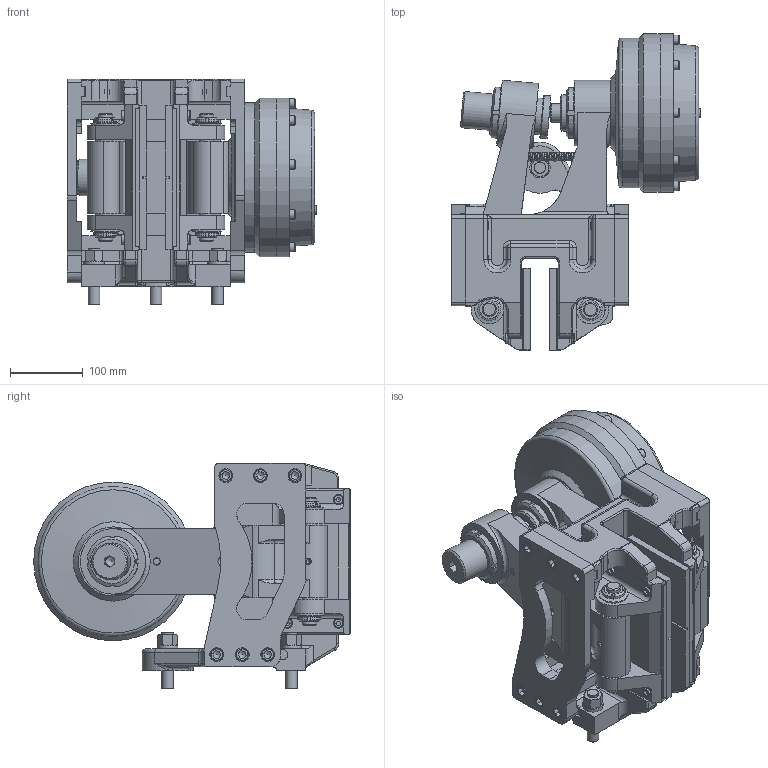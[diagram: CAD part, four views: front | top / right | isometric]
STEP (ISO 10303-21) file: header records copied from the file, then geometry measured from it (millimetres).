
FILE_DESCRIPTION(/* description */ ('','CAx-IF Rec.Pracs.---Representation and Presentation of Product Manufacturing Information (PMI)---4.0---2014-10-13'),/* implementation_level */ '2;1');
FILE_NAME(/* name */ 'X:\INVENTOR\DISEGNI\19_Pinze\STEP x Sito\PNEUM-NEGATIVE\19_36_064_04 PPT-N064_25,4.stp',/* time_stamp */ '2018-10-25T11:07:41+02:00',/* author */ ('stefano'),/* organization */ (''),/* preprocessor_version */ 'ST-DEVELOPER v17',/* originating_system */ 'Autodesk Inventor 2018',/* authorisation */ '');
FILE_SCHEMA (('AP242_MANAGED_MODEL_BASED_3D_ENGINEERING_MIM_LF { 1 0 10303 442 1 1 4 }'));
Length unit declared in the file: millimetre
Products named in the file (1): 19_36_064_04 PPT-N064_25,4_Substitute_3
Bounding box: 343.1 x 435 x 310 mm (x, y, z)
Volume: 9984410.4 mm3; surface area: 1208527.7 mm2
Topology: 1 solids, 1 shells, 1759 faces, 4812 edges, 3124 vertices
Faces by surface type: plane 853, cylinder 504, cone 178, torus 173, bspline 31, sphere 20
Full cylindrical faces by diameter (mm): 1.8 x2, 4.917 x6, 5 x1, 6.3 x6, 6.917 x1, 7.4 x1, 7.5 x2, 8 x8, 8.376 x1, 8.5 x8, 8.917 x2, 9 x1, 9.188 x1, 10 x3, 10.106 x3, 10.5 x5, 11.445 x1, 12 x15, 12.5 x12, 13 x17, 13.5 x8, 14 x1, 16 x6, 16.5 x5, 17 x3, 18 x13, 18.631 x1, 19 x12, 20 x13, 22 x6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
Entity records: 65242 total; most frequent: CARTESIAN_POINT 19005, DIRECTION 9558, ORIENTED_EDGE 9480, EDGE_CURVE 4740, AXIS2_PLACEMENT_3D 3685, VERTEX_POINT 3124, LINE 2188, VECTOR 2188
